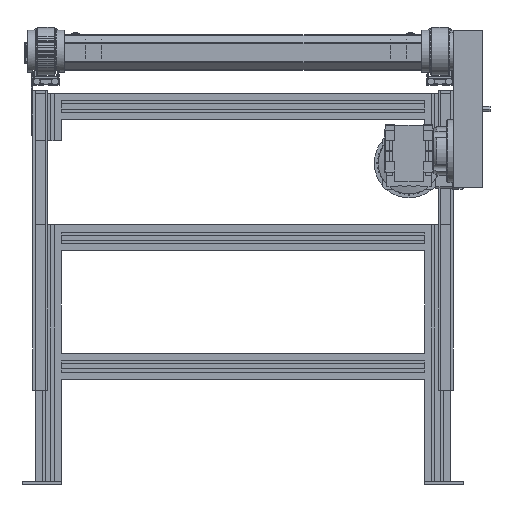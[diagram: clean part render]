
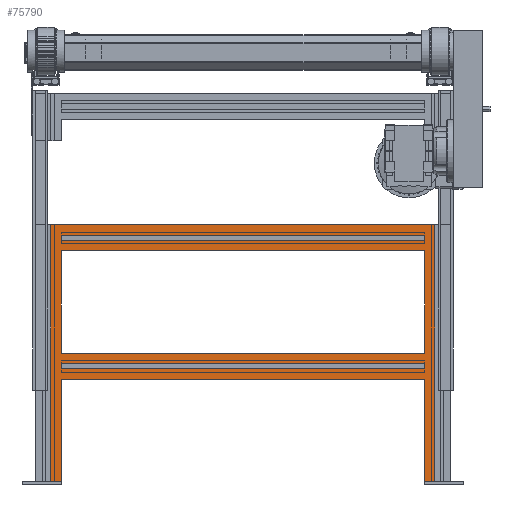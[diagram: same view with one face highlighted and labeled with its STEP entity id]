
A CAD part, front view. The second image highlights one B-rep face of the part: STEP entity #75790.
In plain terms, the highlighted planar face has unit normal (0, -1, 0).
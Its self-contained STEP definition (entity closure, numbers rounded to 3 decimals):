
#1174=FACE_BOUND('',#9986,.T.);
#1175=FACE_BOUND('',#9987,.T.);
#1176=FACE_BOUND('',#9988,.T.);
#6221=FACE_OUTER_BOUND('',#9985,.T.);
#9985=EDGE_LOOP('',(#56427,#56428,#56429,#56430,#56431,#56432,#56433,#56434));
#9986=EDGE_LOOP('',(#56435,#56436,#56437,#56438));
#9987=EDGE_LOOP('',(#56439,#56440,#56441,#56442));
#9988=EDGE_LOOP('',(#56443,#56444,#56445,#56446));
#15529=LINE('',#113650,#23461);
#15742=LINE('',#114098,#23674);
#15748=LINE('',#114112,#23680);
#15764=LINE('',#114145,#23696);
#15788=LINE('',#114196,#23720);
#15938=LINE('',#114492,#23870);
#15965=LINE('',#114545,#23897);
#16166=LINE('',#114943,#24098);
#16178=LINE('',#114967,#24110);
#16181=LINE('',#114973,#24113);
#16228=LINE('',#115066,#24160);
#16232=LINE('',#115074,#24164);
#16235=LINE('',#115079,#24167);
#16244=LINE('',#115094,#24176);
#16255=LINE('',#115116,#24187);
#16267=LINE('',#115140,#24199);
#16309=LINE('',#115221,#24241);
#16313=LINE('',#115228,#24245);
#16410=LINE('',#115418,#24342);
#16411=LINE('',#115420,#24343);
#23461=VECTOR('',#91843,19.95);
#23674=VECTOR('',#92186,194.5);
#23680=VECTOR('',#92196,10.1);
#23696=VECTOR('',#92216,194.5);
#23720=VECTOR('',#92250,10.1);
#23870=VECTOR('',#92486,489.);
#23897=VECTOR('',#92533,19.95);
#24098=VECTOR('',#92904,691.);
#24110=VECTOR('',#92928,691.);
#24113=VECTOR('',#92933,691.);
#24160=VECTOR('',#93020,691.);
#24164=VECTOR('',#93030,194.5);
#24167=VECTOR('',#93035,10.1);
#24176=VECTOR('',#93052,194.5);
#24187=VECTOR('',#93069,691.);
#24199=VECTOR('',#93093,691.);
#24241=VECTOR('',#93173,691.);
#24245=VECTOR('',#93183,10.1);
#24342=VECTOR('',#93366,489.);
#24343=VECTOR('',#93369,730.9);
#31228=VERTEX_POINT('',#113648);
#31229=VERTEX_POINT('',#113649);
#31396=VERTEX_POINT('',#114091);
#31399=VERTEX_POINT('',#114096);
#31404=VERTEX_POINT('',#114109);
#31405=VERTEX_POINT('',#114111);
#31419=VERTEX_POINT('',#114142);
#31420=VERTEX_POINT('',#114144);
#31440=VERTEX_POINT('',#114192);
#31442=VERTEX_POINT('',#114195);
#31544=VERTEX_POINT('',#114488);
#31545=VERTEX_POINT('',#114490);
#31673=VERTEX_POINT('',#114940);
#31679=VERTEX_POINT('',#114965);
#31681=VERTEX_POINT('',#114970);
#31706=VERTEX_POINT('',#115063);
#31708=VERTEX_POINT('',#115073);
#31719=VERTEX_POINT('',#115113);
#31725=VERTEX_POINT('',#115138);
#31795=VERTEX_POINT('',#115416);
#39830=EDGE_CURVE('',#31228,#31229,#15529,.T.);
#40053=EDGE_CURVE('',#31396,#31399,#15742,.T.);
#40059=EDGE_CURVE('',#31405,#31404,#15748,.T.);
#40075=EDGE_CURVE('',#31420,#31419,#15764,.T.);
#40099=EDGE_CURVE('',#31442,#31440,#15788,.T.);
#40249=EDGE_CURVE('',#31545,#31544,#15938,.T.);
#40276=EDGE_CURVE('',#31545,#31420,#15965,.T.);
#40479=EDGE_CURVE('',#31405,#31673,#16166,.T.);
#40491=EDGE_CURVE('',#31404,#31679,#16178,.T.);
#40494=EDGE_CURVE('',#31396,#31681,#16181,.T.);
#40541=EDGE_CURVE('',#31419,#31706,#16228,.T.);
#40545=EDGE_CURVE('',#31681,#31708,#16232,.T.);
#40548=EDGE_CURVE('',#31673,#31679,#16235,.T.);
#40557=EDGE_CURVE('',#31229,#31706,#16244,.T.);
#40568=EDGE_CURVE('',#31442,#31719,#16255,.T.);
#40580=EDGE_CURVE('',#31440,#31725,#16267,.T.);
#40622=EDGE_CURVE('',#31399,#31708,#16309,.T.);
#40626=EDGE_CURVE('',#31719,#31725,#16313,.T.);
#40723=EDGE_CURVE('',#31228,#31795,#16410,.T.);
#40724=EDGE_CURVE('',#31544,#31795,#16411,.T.);
#56427=ORIENTED_EDGE('',*,*,#40541,.T.);
#56428=ORIENTED_EDGE('',*,*,#40557,.F.);
#56429=ORIENTED_EDGE('',*,*,#39830,.F.);
#56430=ORIENTED_EDGE('',*,*,#40723,.T.);
#56431=ORIENTED_EDGE('',*,*,#40724,.F.);
#56432=ORIENTED_EDGE('',*,*,#40249,.F.);
#56433=ORIENTED_EDGE('',*,*,#40276,.T.);
#56434=ORIENTED_EDGE('',*,*,#40075,.T.);
#56435=ORIENTED_EDGE('',*,*,#40491,.T.);
#56436=ORIENTED_EDGE('',*,*,#40548,.F.);
#56437=ORIENTED_EDGE('',*,*,#40479,.F.);
#56438=ORIENTED_EDGE('',*,*,#40059,.T.);
#56439=ORIENTED_EDGE('',*,*,#40580,.T.);
#56440=ORIENTED_EDGE('',*,*,#40626,.F.);
#56441=ORIENTED_EDGE('',*,*,#40568,.F.);
#56442=ORIENTED_EDGE('',*,*,#40099,.T.);
#56443=ORIENTED_EDGE('',*,*,#40494,.F.);
#56444=ORIENTED_EDGE('',*,*,#40053,.T.);
#56445=ORIENTED_EDGE('',*,*,#40622,.T.);
#56446=ORIENTED_EDGE('',*,*,#40545,.F.);
#69085=PLANE('',#80553);
#75790=ADVANCED_FACE('',(#6221,#1174,#1175,#1176),#69085,.T.);
#80553=AXIS2_PLACEMENT_3D('',#115419,#93367,#93368);
#91843=DIRECTION('',(-1.,0.,0.));
#92186=DIRECTION('',(0.,0.,1.));
#92196=DIRECTION('',(0.,0.,1.));
#92216=DIRECTION('',(0.,0.,1.));
#92250=DIRECTION('',(0.,0.,1.));
#92486=DIRECTION('',(0.,0.,1.));
#92533=DIRECTION('',(1.,0.,0.));
#92904=DIRECTION('',(1.,0.,0.));
#92928=DIRECTION('',(1.,0.,0.));
#92933=DIRECTION('',(1.,0.,0.));
#93020=DIRECTION('',(1.,0.,0.));
#93030=DIRECTION('',(0.,0.,1.));
#93035=DIRECTION('',(0.,0.,1.));
#93052=DIRECTION('',(0.,0.,1.));
#93069=DIRECTION('',(1.,0.,0.));
#93093=DIRECTION('',(1.,0.,0.));
#93173=DIRECTION('',(1.,0.,0.));
#93183=DIRECTION('',(0.,0.,1.));
#93366=DIRECTION('',(0.,0.,1.));
#93367=DIRECTION('center_axis',(0.,-1.,0.));
#93368=DIRECTION('ref_axis',(0.,0.,-1.));
#93369=DIRECTION('',(1.,0.,0.));
#113648=CARTESIAN_POINT('',(365.45,-345.,-819.));
#113649=CARTESIAN_POINT('',(345.5,-345.,-819.));
#113650=CARTESIAN_POINT('',(374.225,-345.,-819.));
#114091=CARTESIAN_POINT('',(-345.5,-345.,-574.5));
#114096=CARTESIAN_POINT('',(-345.5,-345.,-380.));
#114098=CARTESIAN_POINT('',(-345.5,-345.,-819.));
#114109=CARTESIAN_POINT('',(-345.5,-345.,-594.45));
#114111=CARTESIAN_POINT('',(-345.5,-345.,-604.55));
#114112=CARTESIAN_POINT('',(-345.5,-345.,-819.));
#114142=CARTESIAN_POINT('',(-345.5,-345.,-624.5));
#114144=CARTESIAN_POINT('',(-345.5,-345.,-819.));
#114145=CARTESIAN_POINT('',(-345.5,-345.,-819.));
#114192=CARTESIAN_POINT('',(-345.5,-345.,-349.95));
#114195=CARTESIAN_POINT('',(-345.5,-345.,-360.05));
#114196=CARTESIAN_POINT('',(-345.5,-345.,-819.));
#114488=CARTESIAN_POINT('',(-365.45,-345.,-330.));
#114490=CARTESIAN_POINT('',(-365.45,-345.,-819.));
#114492=CARTESIAN_POINT('',(-365.45,-345.,-819.));
#114545=CARTESIAN_POINT('',(-374.225,-345.,-819.));
#114940=CARTESIAN_POINT('',(345.5,-345.,-604.55));
#114943=CARTESIAN_POINT('',(0.,-345.,-604.55));
#114965=CARTESIAN_POINT('',(345.5,-345.,-594.45));
#114967=CARTESIAN_POINT('',(0.,-345.,-594.45));
#114970=CARTESIAN_POINT('',(345.5,-345.,-574.5));
#114973=CARTESIAN_POINT('',(0.,-345.,-574.5));
#115063=CARTESIAN_POINT('',(345.5,-345.,-624.5));
#115066=CARTESIAN_POINT('',(0.,-345.,-624.5));
#115073=CARTESIAN_POINT('',(345.5,-345.,-380.));
#115074=CARTESIAN_POINT('',(345.5,-345.,-819.));
#115079=CARTESIAN_POINT('',(345.5,-345.,-819.));
#115094=CARTESIAN_POINT('',(345.5,-345.,-819.));
#115113=CARTESIAN_POINT('',(345.5,-345.,-360.05));
#115116=CARTESIAN_POINT('',(0.,-345.,-360.05));
#115138=CARTESIAN_POINT('',(345.5,-345.,-349.95));
#115140=CARTESIAN_POINT('',(0.,-345.,-349.95));
#115221=CARTESIAN_POINT('',(0.,-345.,-380.));
#115228=CARTESIAN_POINT('',(345.5,-345.,-819.));
#115416=CARTESIAN_POINT('',(365.45,-345.,-330.));
#115418=CARTESIAN_POINT('',(365.45,-345.,-819.));
#115419=CARTESIAN_POINT('Origin',(365.45,-345.,-819.));
#115420=CARTESIAN_POINT('',(0.,-345.,-330.));
